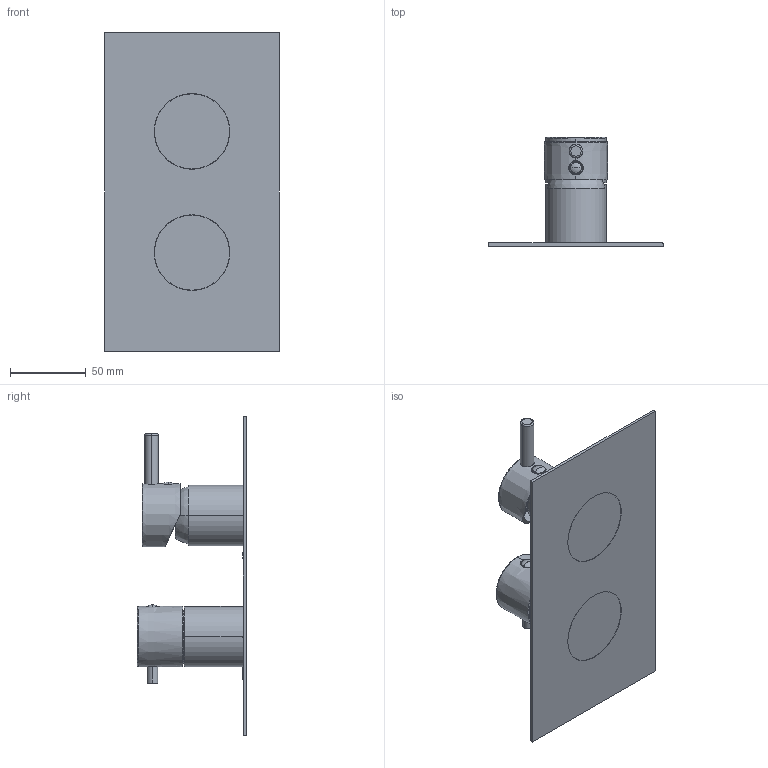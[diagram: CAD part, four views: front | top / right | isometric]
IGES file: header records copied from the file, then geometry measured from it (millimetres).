
Start section:  PTC IGES file: 12523v2_sw0001.igs
Global section: file name: 12523v2_sw0001.igs; native system: Creo Parametric by PTC Inc.; preprocessor: 2018100; author: volponeff; organization: Unknown; date: 20200923.132719; units: millimetre
Bounding box: 115 x 72.2 x 210 mm (x, y, z)
Surface area: 82670.5 mm2 (no closed solid volume)
Topology: 0 solids, 0 shells, 319 faces, 1596 edges, 1592 vertices
Faces by surface type: bspline 162, revolution 103, extrusion 54
